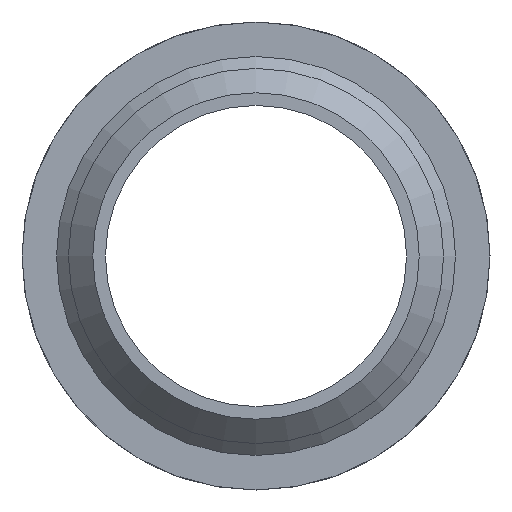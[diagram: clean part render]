
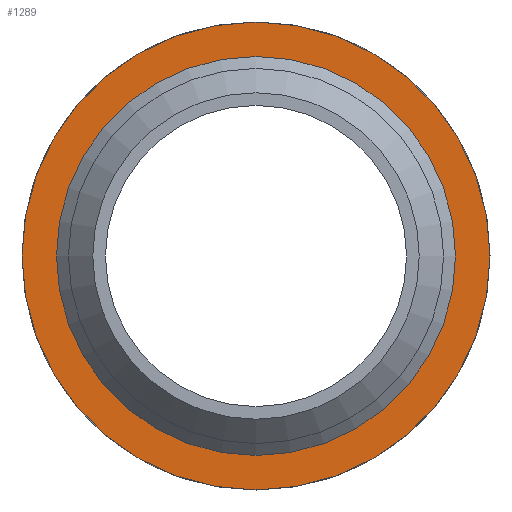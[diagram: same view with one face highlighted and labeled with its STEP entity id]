
A CAD part, left-side view. The second image highlights one B-rep face of the part: STEP entity #1289.
In plain terms, the highlighted planar face has unit normal (-1, 0, 0).
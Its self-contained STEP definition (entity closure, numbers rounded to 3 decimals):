
#199=CARTESIAN_POINT('',(-36.366,55.,0.));
#200=VERTEX_POINT('',#199);
#201=CARTESIAN_POINT('',(-36.366,0.,0.));
#202=DIRECTION('',(1.0,0.0,0.0));
#203=DIRECTION('',(0.0,1.0,0.0));
#204=AXIS2_PLACEMENT_3D('',#201,#202,#203);
#205=CIRCLE('',#204,55.);
#206=EDGE_CURVE('',#200,#200,#205,.T.);
#1270=CARTESIAN_POINT('',(-36.366,59.75,0.));
#1271=DIRECTION('',(-1.0,0.0,0.0));
#1272=DIRECTION('',(0.0,0.0,1.0));
#1273=AXIS2_PLACEMENT_3D('',#1270,#1271,#1272);
#1274=PLANE('',#1273);
#1275=CARTESIAN_POINT('',(-36.366,64.5,0.));
#1276=VERTEX_POINT('',#1275);
#1277=CARTESIAN_POINT('',(-36.366,0.,0.));
#1278=DIRECTION('',(1.0,0.0,0.0));
#1279=DIRECTION('',(0.0,1.0,0.0));
#1280=AXIS2_PLACEMENT_3D('',#1277,#1278,#1279);
#1281=CIRCLE('',#1280,64.5);
#1282=EDGE_CURVE('',#1276,#1276,#1281,.T.);
#1283=ORIENTED_EDGE('',*,*,#1282,.F.);
#1284=EDGE_LOOP('',(#1283));
#1285=FACE_OUTER_BOUND('',#1284,.T.);
#1286=ORIENTED_EDGE('',*,*,#206,.T.);
#1287=EDGE_LOOP('',(#1286));
#1288=FACE_BOUND('',#1287,.T.);
#1289=ADVANCED_FACE('',(#1285,#1288),#1274,.T.);
